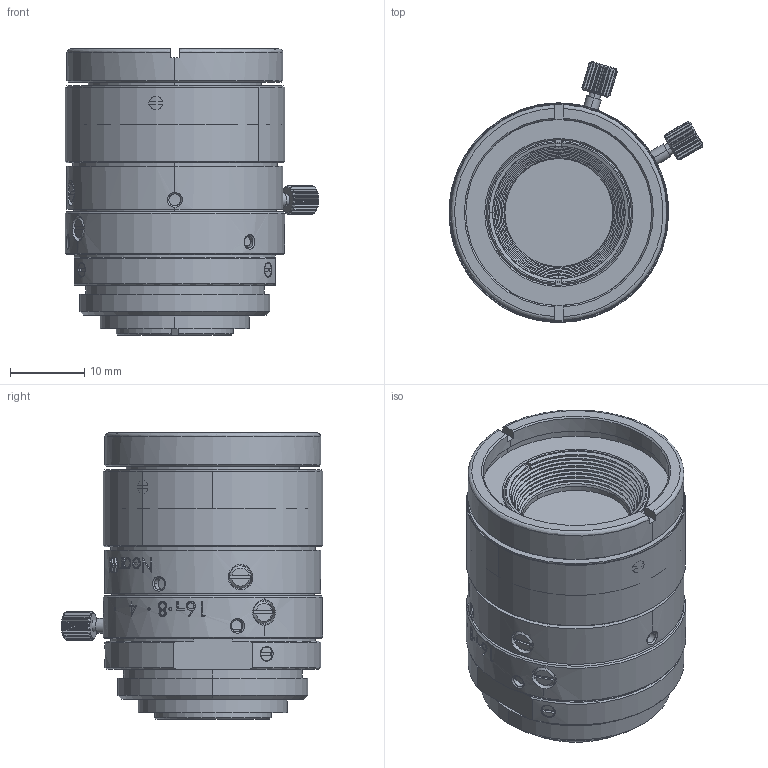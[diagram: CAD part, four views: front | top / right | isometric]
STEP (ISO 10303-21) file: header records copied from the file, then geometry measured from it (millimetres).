
FILE_DESCRIPTION (( 'STEP AP203' ), '1' );
FILE_NAME ('3d_ml-m1618hr_a002.STEP', '2019-04-04T05:14:36', ( '' ), ( '' ), 'SwSTEP 2.0', 'SolidWorks 2014', '' );
FILE_SCHEMA (( 'CONFIG_CONTROL_DESIGN' ));
Length unit declared in the file: millimetre
Products named in the file (1): 3d_ml-m1618hr_a002
Bounding box: 34.11 x 35.09 x 38.46 mm (x, y, z)
Volume: 20752.8 mm3; surface area: 8309.1 mm2
Topology: 1 solids, 1 shells, 976 faces, 2589 edges, 1701 vertices
Faces by surface type: cylinder 339, plane 321, bspline 187, cone 129
Entity records: 67239 total; most frequent: CARTESIAN_POINT 44945, ORIENTED_EDGE 5178, DIRECTION 3728, EDGE_CURVE 2589, VERTEX_POINT 1701, AXIS2_PLACEMENT_3D 1370, EDGE_LOOP 1062, B_SPLINE_CURVE_WITH_KNOTS 1017
